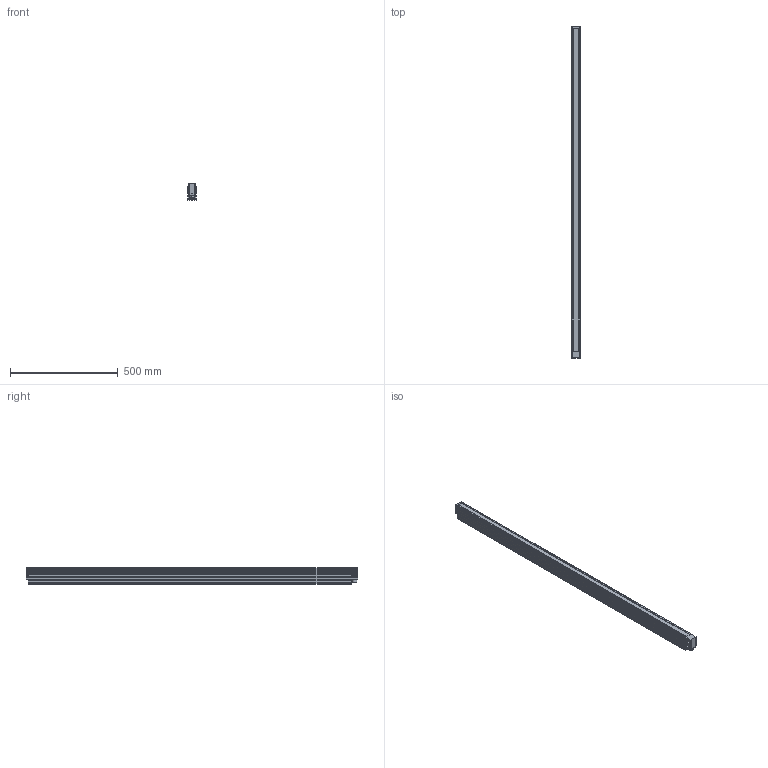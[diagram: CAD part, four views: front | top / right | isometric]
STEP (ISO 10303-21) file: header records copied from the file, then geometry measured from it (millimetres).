
FILE_DESCRIPTION (( 'STEP AP203' ), '1' );
FILE_NAME ('VLN (L_D)-1500W _ Drawing _ L1268A (L12783A_L1299A)-A00101.STEP', '2024-06-24T07:30:55', ( '' ), ( '' ), 'SwSTEP 2.0', 'SolidWorks 2020', '' );
FILE_SCHEMA (( 'CONFIG_CONTROL_DESIGN' ));
Length unit declared in the file: millimetre
Products named in the file (8): VLN-100W _ TMVLN0100D303A _ VLN 側蓋 _ L1254A-M00301 _ STEP 用; M2 X 12 柱頭 內六角 螺絲; M3 X 6 扁頭 螺絲; Nanaboshi NAW-202-RF 板裝連接器 + 防水墊; VLN-100W _ TMVLN0100D304A _ VLN ｳsｱｵｾｹｺﾝｰｼｻ\ _ L1254A-M00401_ STEP･ﾎ; VLN (L_D)-1500W _ Drawing _ L1268A (L12783A_L1299A)-A00101; TMVLN0100D301A _ VLN 0100 主體 _ STEP  用; M2 X 35 柱頭 內六角 螺絲
Assembly tree (24 placements, depth 2):
  VLN (L_D)-1500W _ Drawing _ L1268A (L12783A_L1299A)-A00101
    TMVLN0100D301A _ VLN 0100 主體 _ STEP  用
    VLN-100W _ TMVLN0100D303A _ VLN 側蓋 _ L1254A-M00301 _ STEP 用
    VLN-100W _ TMVLN0100D304A _ VLN ｳsｱｵｾｹｺﾝｰｼｻ\ _ L1254A-M00401_ STEP･ﾎ
    M2 X 12 柱頭 內六角 螺絲  x8
    M2 X 35 柱頭 內六角 螺絲  x8
    M3 X 6 扁頭 螺絲  x4
    Nanaboshi NAW-202-RF 板裝連接器 + 防水墊
Bounding box: 40 x 1542 x 75 mm (x, y, z)
Volume: 3489381.5 mm3; surface area: 826770 mm2
Topology: 24 solids, 24 shells, 1158 faces, 2741 edges, 1722 vertices
Faces by surface type: plane 594, cylinder 372, torus 119, cone 48, bspline 21, sphere 4
Entity records: 26874 total; most frequent: CARTESIAN_POINT 6179, ORIENTED_EDGE 4050, DIRECTION 3981, EDGE_CURVE 2025, VECTOR 1375, LINE 1375, AXIS2_PLACEMENT_3D 1303, VERTEX_POINT 1280
